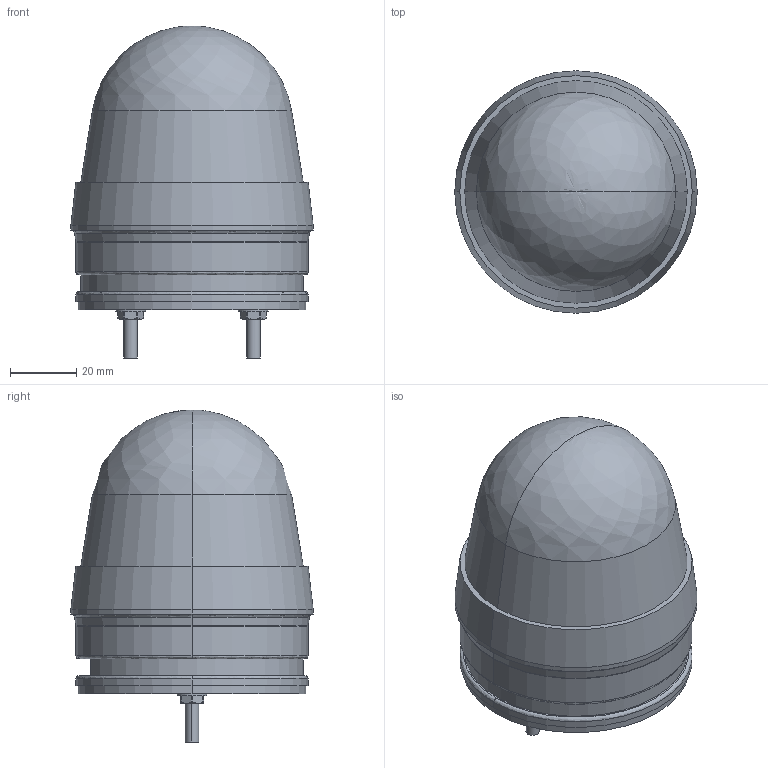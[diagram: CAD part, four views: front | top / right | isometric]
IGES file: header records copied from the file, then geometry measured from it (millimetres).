
Start section: IGES file generated by C3D Converter 1.6 translator by C3D Labs., translator version IGESOUT-5.1.
Global section: file name: HC:\Users\沓膼\OneDrive\Desktop\欙鵳醆JS70-Y-ZK-M\JS70-Y-ZK-M.igs; preprocessor: 1.0; author: 沓膼,7; organization: Hunknown; date: -17760626:201228; units: millimetre
Bounding box: 73 x 73 x 100 mm (x, y, z)
Volume: 141828.6 mm3; surface area: 50881.4 mm2
Topology: 9 solids, 9 shells, 129 faces, 296 edges, 188 vertices
Faces by surface type: revolution 91, bspline 38
